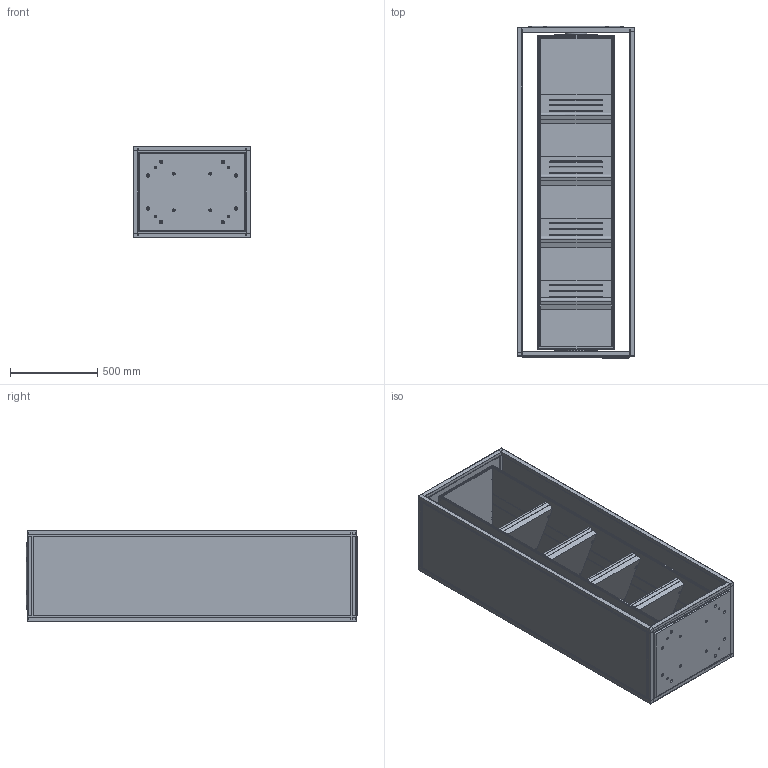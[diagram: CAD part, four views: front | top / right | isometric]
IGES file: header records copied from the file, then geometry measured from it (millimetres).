
Global section: file name: 80064; native system: Autodesk Inventor 2014; preprocessor: unknown; author: Robertom; date: 20140526.112209; units: millimetre
Bounding box: 675 x 1903.5 x 520 mm (x, y, z)
Volume: 100554477.9 mm3; surface area: 17141081.3 mm2
Topology: 64 solids, 80 shells, 2216 faces, 6278 edges, 4382 vertices
Faces by surface type: bspline 2216
